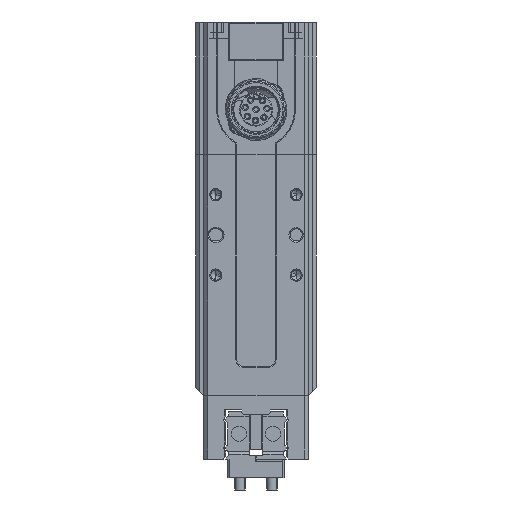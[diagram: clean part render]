
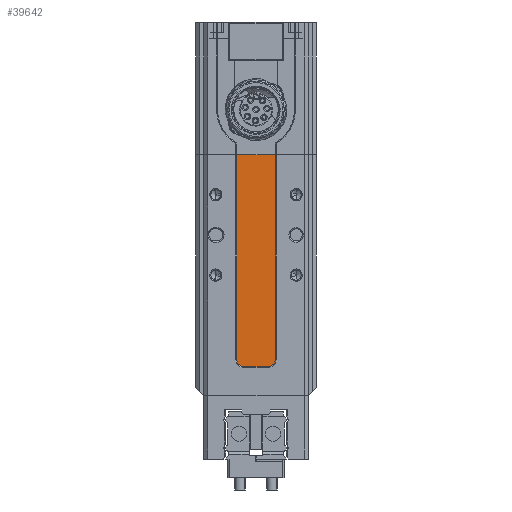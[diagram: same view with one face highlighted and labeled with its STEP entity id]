
A CAD part, left-side view. The second image highlights one B-rep face of the part: STEP entity #39642.
In plain terms, the highlighted planar face has unit normal (-1, 0, 0).
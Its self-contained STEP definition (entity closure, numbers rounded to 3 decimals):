
#113 = EDGE_CURVE ( 'NONE', #33975, #19737, #8304, .T. ) ;
#5359 = DIRECTION ( 'NONE',  ( 0., 0., -1. ) ) ;
#5583 = CARTESIAN_POINT ( 'NONE',  ( -27.3, 4.8, 60. ) ) ;
#8304 = LINE ( 'NONE', #49483, #74638 ) ;
#9763 = EDGE_CURVE ( 'NONE', #19737, #71961, #69211, .T. ) ;
#12466 = LINE ( 'NONE', #35378, #15048 ) ;
#12522 = VERTEX_POINT ( 'NONE', #42202 ) ;
#12634 = ORIENTED_EDGE ( 'NONE', *, *, #39395, .T. ) ;
#15048 = VECTOR ( 'NONE', #70849, 1000. ) ;
#18082 = EDGE_CURVE ( 'NONE', #53706, #70831, #44764, .T. ) ;
#19133 = CARTESIAN_POINT ( 'NONE',  ( -27.3, -4.8, 60. ) ) ;
#19737 = VERTEX_POINT ( 'NONE', #56072 ) ;
#22533 = CARTESIAN_POINT ( 'NONE',  ( -27.3, -3., 9. ) ) ;
#23440 = EDGE_CURVE ( 'NONE', #70831, #12522, #12466, .T. ) ;
#26523 = DIRECTION ( 'NONE',  ( 0., 0., -1. ) ) ;
#28370 = ORIENTED_EDGE ( 'NONE', *, *, #41136, .T. ) ;
#30478 = CARTESIAN_POINT ( 'NONE',  ( -27.3, -4.8, 9. ) ) ;
#31229 = DIRECTION ( 'NONE',  ( 0., 0., 1. ) ) ;
#32344 = DIRECTION ( 'NONE',  ( 0., 1., 0. ) ) ;
#33551 = VECTOR ( 'NONE', #31229, 1000. ) ;
#33975 = VERTEX_POINT ( 'NONE', #50267 ) ;
#35155 = ORIENTED_EDGE ( 'NONE', *, *, #18082, .T. ) ;
#35378 = CARTESIAN_POINT ( 'NONE',  ( -27.3, 4.8, 0. ) ) ;
#38056 = PLANE ( 'NONE',  #42097 ) ;
#38069 = EDGE_LOOP ( 'NONE', ( #61632, #12634, #35155, #69591, #28370, #46197 ) ) ;
#38289 = CARTESIAN_POINT ( 'NONE',  ( -27.3, 0., 60. ) ) ;
#39121 = VECTOR ( 'NONE', #68049, 1000. ) ;
#39395 = EDGE_CURVE ( 'NONE', #71961, #53706, #60208, .T. ) ;
#39642 = ADVANCED_FACE ( 'NONE', ( #67054 ), #38056, .F. ) ;
#41136 = EDGE_CURVE ( 'NONE', #12522, #33975, #64967, .T. ) ;
#42097 = AXIS2_PLACEMENT_3D ( 'NONE', #62102, #56351, #32344 ) ;
#42202 = CARTESIAN_POINT ( 'NONE',  ( -27.3, 4.8, 9. ) ) ;
#44764 = LINE ( 'NONE', #38289, #39121 ) ;
#45783 = DIRECTION ( 'NONE',  ( -1., 0., 0. ) ) ;
#46197 = ORIENTED_EDGE ( 'NONE', *, *, #113, .T. ) ;
#47268 = AXIS2_PLACEMENT_3D ( 'NONE', #22533, #45783, #5359 ) ;
#47979 = CARTESIAN_POINT ( 'NONE',  ( -27.3, -4.8, 0. ) ) ;
#49483 = CARTESIAN_POINT ( 'NONE',  ( -27.3, 0., 7.2 ) ) ;
#50267 = CARTESIAN_POINT ( 'NONE',  ( -27.3, 3., 7.2 ) ) ;
#51560 = AXIS2_PLACEMENT_3D ( 'NONE', #54761, #61639, #26523 ) ;
#53706 = VERTEX_POINT ( 'NONE', #19133 ) ;
#54761 = CARTESIAN_POINT ( 'NONE',  ( -27.3, 3., 9. ) ) ;
#56072 = CARTESIAN_POINT ( 'NONE',  ( -27.3, -3., 7.2 ) ) ;
#56351 = DIRECTION ( 'NONE',  ( 1., 0., 0. ) ) ;
#60208 = LINE ( 'NONE', #47979, #33551 ) ;
#61632 = ORIENTED_EDGE ( 'NONE', *, *, #9763, .T. ) ;
#61639 = DIRECTION ( 'NONE',  ( -1., 0., 0. ) ) ;
#62102 = CARTESIAN_POINT ( 'NONE',  ( -27.3, 0., 0. ) ) ;
#64967 = CIRCLE ( 'NONE', #51560, 1.8 ) ;
#67054 = FACE_OUTER_BOUND ( 'NONE', #38069, .T. ) ;
#68049 = DIRECTION ( 'NONE',  ( 0., 1., 0. ) ) ;
#69211 = CIRCLE ( 'NONE', #47268, 1.8 ) ;
#69591 = ORIENTED_EDGE ( 'NONE', *, *, #23440, .T. ) ;
#70831 = VERTEX_POINT ( 'NONE', #5583 ) ;
#70849 = DIRECTION ( 'NONE',  ( 0., 0., -1. ) ) ;
#71961 = VERTEX_POINT ( 'NONE', #30478 ) ;
#72740 = DIRECTION ( 'NONE',  ( 0., -1., 0. ) ) ;
#74638 = VECTOR ( 'NONE', #72740, 1000. ) ;
